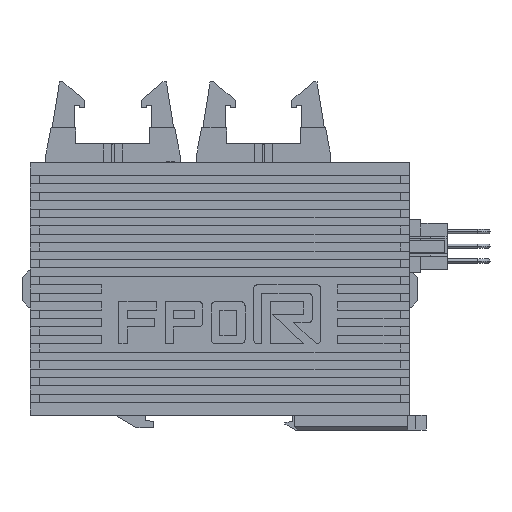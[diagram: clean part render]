
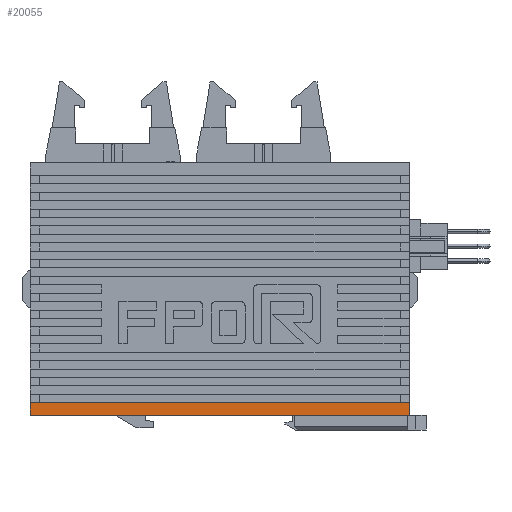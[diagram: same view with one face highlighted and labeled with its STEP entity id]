
A CAD part, left-side view. The second image highlights one B-rep face of the part: STEP entity #20055.
In plain terms, the highlighted planar face has unit normal (-1, 0, 0).
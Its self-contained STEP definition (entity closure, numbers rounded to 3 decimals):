
#15791 = CARTESIAN_POINT ( 'NONE',  ( -15., -45., 3. ) ) ;
#15919 = DIRECTION ( 'NONE',  ( 0., 0., -1. ) ) ;
#15920 = VECTOR ( 'NONE', #15919, 1000. ) ;
#15924 = CARTESIAN_POINT ( 'NONE',  ( -15., -45., 60. ) ) ;
#15925 = LINE ( 'NONE', #15924, #15920 ) ;
#16187 = VECTOR ( 'NONE', #16202, 1000. ) ;
#16192 = LINE ( 'NONE', #16203, #16187 ) ;
#16202 = DIRECTION ( 'NONE',  ( 0., -1., 0. ) ) ;
#16203 = CARTESIAN_POINT ( 'NONE',  ( -15., 45., 3. ) ) ;
#16213 = CARTESIAN_POINT ( 'NONE',  ( -15., 45., 60. ) ) ;
#16214 = LINE ( 'NONE', #16213, #16277 ) ;
#16264 = DIRECTION ( 'NONE',  ( 0., 1., 0. ) ) ;
#16265 = DIRECTION ( 'NONE',  ( 1., 0., 0. ) ) ;
#16266 = CARTESIAN_POINT ( 'NONE',  ( -15., 45., 60. ) ) ;
#16267 = AXIS2_PLACEMENT_3D ( 'NONE', #16266, #16265, #16264 ) ;
#16271 = PLANE ( 'NONE',  #16267 ) ;
#16272 = FACE_OUTER_BOUND ( 'NONE', #38818, .T. ) ;
#16273 = CARTESIAN_POINT ( 'NONE',  ( -15., 45., 3. ) ) ;
#16276 = DIRECTION ( 'NONE',  ( 0., 0., -1. ) ) ;
#16277 = VECTOR ( 'NONE', #16276, 1000. ) ;
#17899 = VERTEX_POINT ( 'NONE', #15791 ) ;
#18191 = EDGE_CURVE ( 'NONE', #17899, #38333, #15925, .T. ) ;
#19869 = EDGE_CURVE ( 'NONE', #20052, #17899, #16192, .T. ) ;
#19985 = EDGE_CURVE ( 'NONE', #20052, #38304, #16214, .T. ) ;
#19994 = ORIENTED_EDGE ( 'NONE', *, *, #19985, .T. ) ;
#19999 = ORIENTED_EDGE ( 'NONE', *, *, #19869, .F. ) ;
#20027 = ORIENTED_EDGE ( 'NONE', *, *, #38331, .T. ) ;
#20041 = ORIENTED_EDGE ( 'NONE', *, *, #18191, .F. ) ;
#20052 = VERTEX_POINT ( 'NONE', #16273 ) ;
#20055 = ADVANCED_FACE ( 'NONE', ( #16272 ), #16271, .F. ) ;
#29710 = CARTESIAN_POINT ( 'NONE',  ( -15., 45., 0. ) ) ;
#29779 = DIRECTION ( 'NONE',  ( 0., -1., 0. ) ) ;
#29780 = VECTOR ( 'NONE', #29779, 1000. ) ;
#29781 = CARTESIAN_POINT ( 'NONE',  ( -15., 45., 0. ) ) ;
#29784 = CARTESIAN_POINT ( 'NONE',  ( -15., -45., 0. ) ) ;
#29785 = LINE ( 'NONE', #29781, #29780 ) ;
#38304 = VERTEX_POINT ( 'NONE', #29710 ) ;
#38331 = EDGE_CURVE ( 'NONE', #38304, #38333, #29785, .T. ) ;
#38333 = VERTEX_POINT ( 'NONE', #29784 ) ;
#38818 = EDGE_LOOP ( 'NONE', ( #20041, #19999, #19994, #20027 ) ) ;
